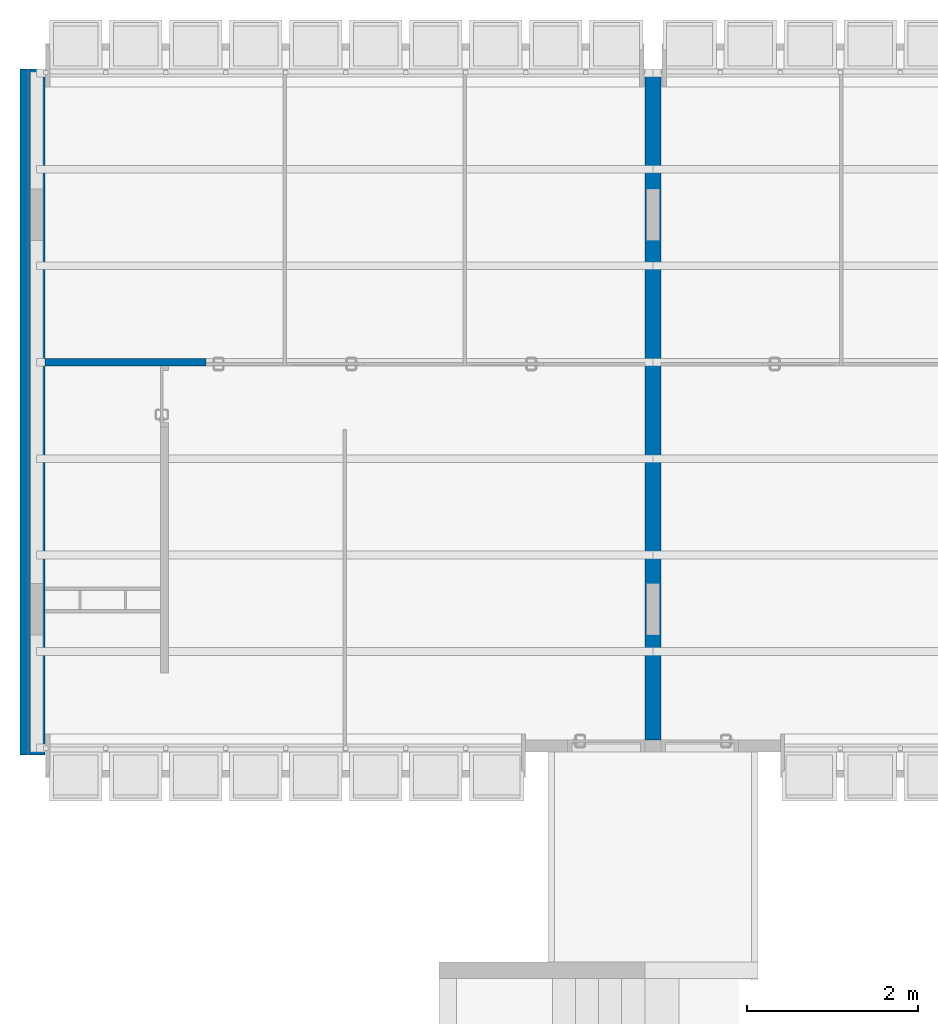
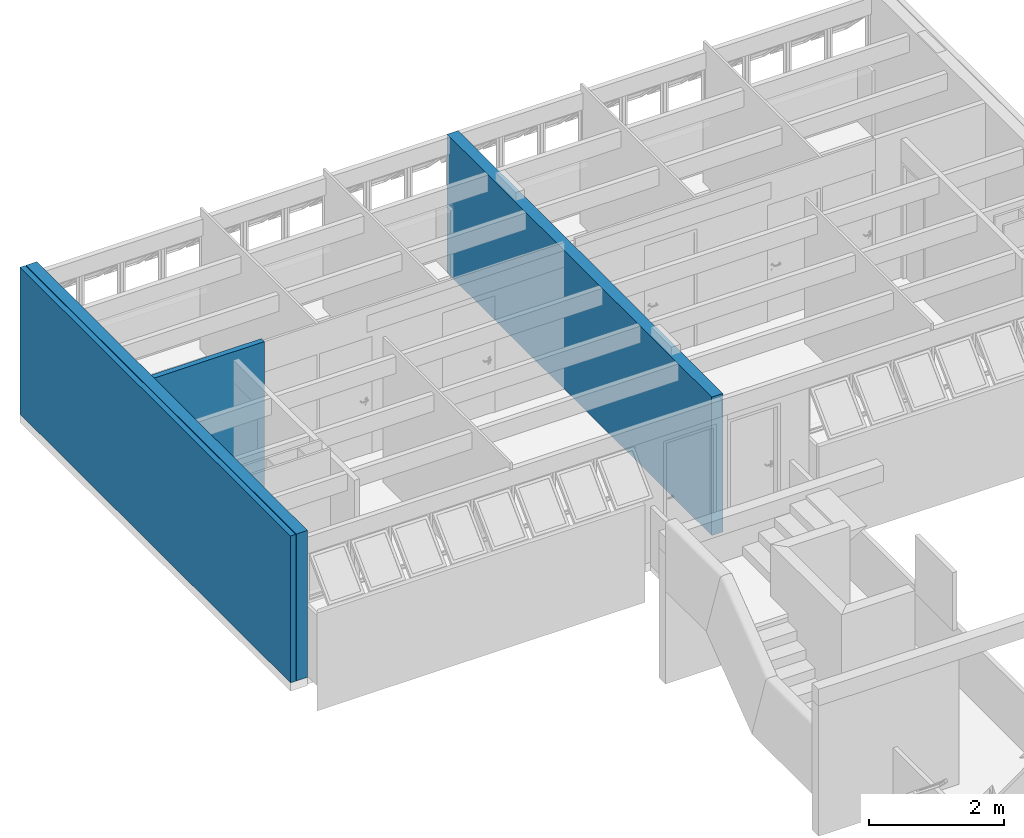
# One storey, part 19 of 38: 4 walls.
"""IFC2X3 building model written with IfcOpenShell, lengths in millimetres."""

from ifc_helpers import new_model, entity, si_unit, converted_unit, derived_unit, money_unit, direction, frame, origin_with_axes, place, context, subcontext, project, spatial, polyline, outline, extrude, material, layer, layer_set, layer_usage, type_object, element, save


model = new_model("IFC2X3")

# Units and contexts
model_context = context("Model", 3, precision=0.01, world=origin_with_axes(), true_north=direction((0.0, 1.0)))
body_context = subcontext(model_context, "Body", "Model", "MODEL_VIEW")
ifc_project = project(units=[si_unit("LENGTHUNIT", "METRE", prefix="MILLI"), si_unit("AREAUNIT", "SQUARE_METRE"), si_unit("VOLUMEUNIT", "CUBIC_METRE"), converted_unit("PLANEANGLEUNIT", "DEGREE", entity("IfcPlaneAngleMeasure", 0.0174532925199), si_unit("PLANEANGLEUNIT", "RADIAN"), dimensions=[0, 0, 0, 0, 0, 0, 0]), money_unit("USD"), converted_unit("TIMEUNIT", "Year", entity("IfcTimeMeasure", 31556926.0), si_unit("TIMEUNIT", "SECOND"), dimensions=[0, 0, 1, 0, 0, 0, 0]), si_unit("MASSUNIT", "GRAM", prefix="KILO"), si_unit("THERMODYNAMICTEMPERATUREUNIT", "DEGREE_CELSIUS"), si_unit("LUMINOUSINTENSITYUNIT", "LUMEN"), si_unit("ENERGYUNIT", "JOULE", prefix="MEGA"), derived_unit("THERMALCONDUCTANCEUNIT", [(si_unit("POWERUNIT", "WATT"), 1), (si_unit("LENGTHUNIT", "METRE"), -1), (si_unit("THERMODYNAMICTEMPERATUREUNIT", "KELVIN"), -1)]), derived_unit("SPECIFICHEATCAPACITYUNIT", [(si_unit("ENERGYUNIT", "JOULE"), 1), (si_unit("MASSUNIT", "GRAM", prefix="KILO"), -1), (si_unit("THERMODYNAMICTEMPERATUREUNIT", "KELVIN"), -1)]), derived_unit("MASSDENSITYUNIT", [(si_unit("MASSUNIT", "GRAM", prefix="KILO"), 1), (si_unit("VOLUMEUNIT", "CUBIC_METRE"), -1)])], contexts=[model_context])

# Site, building, storey
site_placement = place(None, origin_with_axes())
site = spatial("IfcSite", under=ifc_project, at=site_placement, Name="Local", CompositionType="ELEMENT")
building_placement = place(site_placement, origin_with_axes())
building = spatial("IfcBuilding", under=site, at=building_placement, Name="Construção", CompositionType="ELEMENT")
storey_placement = place(building_placement, frame((0.0, 0.0, 2650.0), z_axis=(0.0, 0.0, 1.0), x_axis=(1.0, 0.0, 0.0)))
storey = spatial("IfcBuildingStorey", under=building, at=storey_placement, Name="Segundo Pavimento", CompositionType="ELEMENT", Elevation=2650.0)

# Walls
ifc_material = material(Name="GENÉRICO - VEDAÇÃO EXTERNA")
ifc_layer_1 = layer(ifc_material, 190.0, ventilated="UNKNOWN")
ifc_layer_set_1 = layer_set([ifc_layer_1], Name="GENÉRICO - VEDAÇÃO EXTERNA 190")
ifc_layer_usage_1 = layer_usage(ifc_layer_set_1, "AXIS2", "POSITIVE", 0.0)
wall_type_1 = type_object("IfcWallType", Name="GENÉRICO - VEDAÇÃO EXTERNA 190", PredefinedType="NOTDEFINED")
wall_1_placement = place(storey_placement, frame((7480.0, 18035.0, 0.0), z_axis=(0.0, 0.0, 1.0), x_axis=(0.0, 1.0, 0.0)))
element("IfcWallStandardCase", 1, at=wall_1_placement, inside=storey, type_object=wall_type_1, material=ifc_layer_usage_1, Name="CIRC2-PAREDE-029", context=body_context, shape_type="SweptSolid", body=[
    extrude(outline(polyline([(0.0, 0.0), (7825.0, 0.0), (7825.0, 190.0), (0.0, 190.0), (0.0, 0.0)])), origin_with_axes(), (0.0, 0.0, 1.0), 2500.0),
])
ifc_layer_usage_2 = layer_usage(ifc_layer_set_1, "AXIS2", "POSITIVE", 0.0)
wall_2_placement = place(storey_placement, frame((290.0, 17860.0, 0.0), z_axis=(0.0, 0.0, 1.0), x_axis=(0.0, 1.0, 0.0)))
element("IfcWallStandardCase", 2, at=wall_2_placement, inside=storey, type_object=wall_type_1, material=ifc_layer_usage_2, Name="APTO7-PAREDE-013", context=body_context, shape_type="SweptSolid", body=[
    extrude(outline(polyline([(0.0, 0.0), (8000.0, 0.0), (8000.0, 190.0), (0.0, 190.0), (0.0, 0.0)])), origin_with_axes(), (0.0, 0.0, 1.0), 2650.0),
])
ifc_layer_2 = layer(ifc_material, 90.0, ventilated="UNKNOWN")
ifc_layer_set_2 = layer_set([ifc_layer_2], Name="GENÉRICO - VEDAÇÃO EXTERNA 90")
ifc_layer_usage_3 = layer_usage(ifc_layer_set_2, "AXIS2", "POSITIVE", 0.0)
wall_type_2 = type_object("IfcWallType", Name="GENÉRICO - VEDAÇÃO EXTERNA 90", PredefinedType="NOTDEFINED")
wall_3_placement = place(storey_placement, frame((290.0, 22394.7804333, 0.0), z_axis=(0.0, 0.0, 1.0), x_axis=(1.0, 0.0, 0.0)))
element("IfcWallStandardCase", 3, at=wall_3_placement, inside=storey, type_object=wall_type_2, material=ifc_layer_usage_3, Name="APTO7-PAREDE-019", context=body_context, shape_type="SweptSolid", body=[
    extrude(outline(polyline([(0.0, 0.0), (1880.0, 0.0), (1879.99807021, 90.0), (0.0, 90.0), (0.0, 0.0)])), origin_with_axes(), (0.0, 0.0, 1.0), 2650.0),
])
ifc_layer_usage_4 = layer_usage(ifc_layer_set_2, "AXIS2", "POSITIVE", 0.0)
wall_4_placement = place(storey_placement, frame((90.0, 17860.0, 0.0), z_axis=(0.0, 0.0, 1.0), x_axis=(0.0, 1.0, 0.0)))
element("IfcWallStandardCase", 4, at=wall_4_placement, inside=storey, type_object=wall_type_2, material=ifc_layer_usage_4, Name="APTO7-PAREDE-014", context=body_context, shape_type="SweptSolid", body=[
    extrude(outline(polyline([(0.0, 0.0), (8000.0, 0.0), (8000.0, 90.0), (0.0, 90.0), (0.0, 0.0)])), origin_with_axes(), (0.0, 0.0, 1.0), 2650.0),
])

save(model, "model.ifc")
